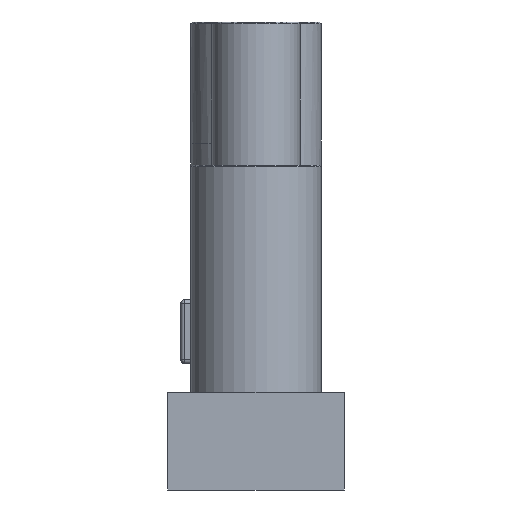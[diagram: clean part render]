
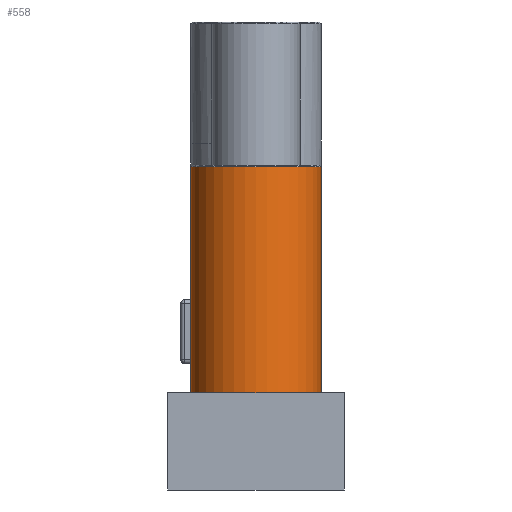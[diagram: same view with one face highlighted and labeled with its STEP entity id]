
A CAD part, left-side view. The second image highlights one B-rep face of the part: STEP entity #558.
In plain terms, the highlighted cylindrical face has radius 37 mm (diameter 74 mm), a partial arc.
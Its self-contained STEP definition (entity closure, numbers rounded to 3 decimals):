
#473=CARTESIAN_POINT('Vertex',(0.,37.,183.)) ;
#476=CARTESIAN_POINT('Axis2P3D Location',(0.,0.,183.)) ;
#480=CARTESIAN_POINT('Vertex',(0.,-37.,183.)) ;
#512=CARTESIAN_POINT('Axis2P3D Location',(0.,0.,115.89)) ;
#517=CARTESIAN_POINT('Line Origine',(0.,37.,88.39)) ;
#521=CARTESIAN_POINT('Vertex',(0.,37.,123.)) ;
#524=CARTESIAN_POINT('Line Origine',(0.,37.,88.39)) ;
#528=CARTESIAN_POINT('Vertex',(0.,37.,55.)) ;
#531=CARTESIAN_POINT('Axis2P3D Location',(0.,0.,55.)) ;
#535=CARTESIAN_POINT('Vertex',(0.,-37.,55.)) ;
#538=CARTESIAN_POINT('Line Origine',(0.,-37.,88.39)) ;
#542=CARTESIAN_POINT('Vertex',(0.,-37.,123.)) ;
#545=CARTESIAN_POINT('Line Origine',(0.,-37.,88.39)) ;
#477=DIRECTION('Axis2P3D Direction',(0.,0.,-1.)) ;
#513=DIRECTION('Axis2P3D Direction',(0.,0.,-1.)) ;
#514=DIRECTION('Axis2P3D XDirection',(0.,-1.,0.)) ;
#518=DIRECTION('Vector Direction',(0.,0.,-1.)) ;
#525=DIRECTION('Vector Direction',(0.,0.,-1.)) ;
#532=DIRECTION('Axis2P3D Direction',(0.,0.,-1.)) ;
#539=DIRECTION('Vector Direction',(0.,0.,-1.)) ;
#546=DIRECTION('Vector Direction',(0.,0.,-1.)) ;
#478=AXIS2_PLACEMENT_3D('Circle Axis2P3D',#476,#477,$) ;
#515=AXIS2_PLACEMENT_3D('Cylinder Axis2P3D',#512,#513,#514) ;
#533=AXIS2_PLACEMENT_3D('Circle Axis2P3D',#531,#532,$) ;
#551=ORIENTED_EDGE('',*,*,#523,.F.) ;
#552=ORIENTED_EDGE('',*,*,#530,.T.) ;
#553=ORIENTED_EDGE('',*,*,#537,.T.) ;
#554=ORIENTED_EDGE('',*,*,#544,.F.) ;
#555=ORIENTED_EDGE('',*,*,#549,.F.) ;
#556=ORIENTED_EDGE('',*,*,#482,.F.) ;
#519=VECTOR('Line Direction',#518,1.) ;
#526=VECTOR('Line Direction',#525,1.) ;
#540=VECTOR('Line Direction',#539,1.) ;
#547=VECTOR('Line Direction',#546,1.) ;
#558=ADVANCED_FACE('',(#557),#516,.T.) ;
#479=CIRCLE('generated circle',#478,37.) ;
#534=CIRCLE('generated circle',#533,37.) ;
#516=CYLINDRICAL_SURFACE('generated cylinder',#515,37.) ;
#482=EDGE_CURVE('',#474,#481,#479,.F.) ;
#523=EDGE_CURVE('',#522,#474,#520,.F.) ;
#530=EDGE_CURVE('',#522,#529,#527,.T.) ;
#537=EDGE_CURVE('',#529,#536,#534,.F.) ;
#544=EDGE_CURVE('',#543,#536,#541,.T.) ;
#549=EDGE_CURVE('',#481,#543,#548,.T.) ;
#550=EDGE_LOOP('',(#551,#552,#553,#554,#555,#556)) ;
#557=FACE_OUTER_BOUND('',#550,.T.) ;
#520=LINE('Line',#517,#519) ;
#527=LINE('Line',#524,#526) ;
#541=LINE('Line',#538,#540) ;
#548=LINE('Line',#545,#547) ;
#474=VERTEX_POINT('',#473) ;
#481=VERTEX_POINT('',#480) ;
#522=VERTEX_POINT('',#521) ;
#529=VERTEX_POINT('',#528) ;
#536=VERTEX_POINT('',#535) ;
#543=VERTEX_POINT('',#542) ;
